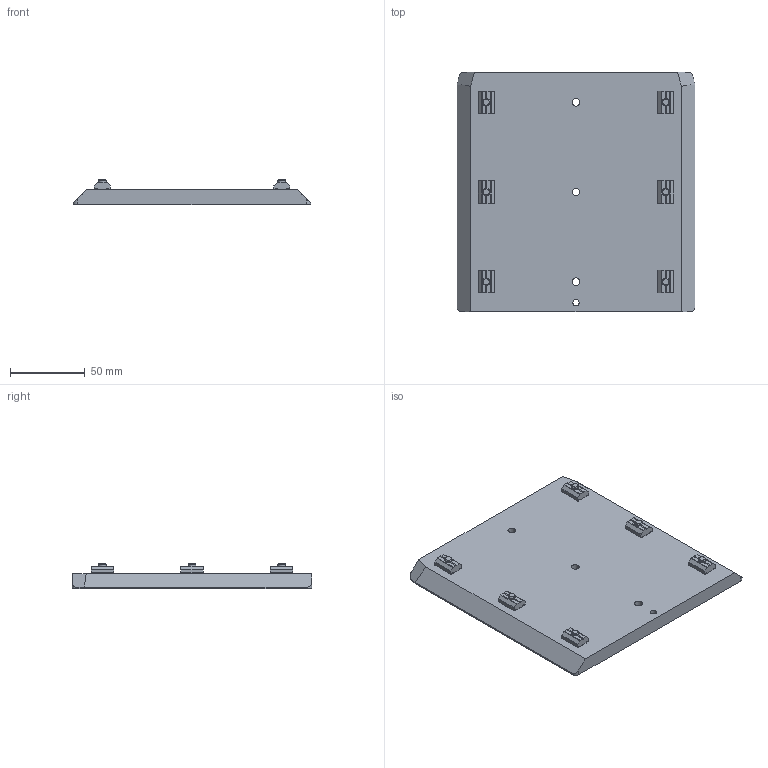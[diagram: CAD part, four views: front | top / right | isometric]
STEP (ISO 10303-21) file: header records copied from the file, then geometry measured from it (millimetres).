
FILE_DESCRIPTION(('STEP AP214'),'1');
FILE_NAME('CA.GPM2.X.stp','2017-07-27T14:34:05',(' '),(' '),'Spatial InterOp 3D',' ',' ');
FILE_SCHEMA(('automotive_design'));
Length unit declared in the file: millimetre
Products named in the file (6): CA.GWP.5U; GWP.5U; R.5.SCH; V.TCE5x12; GPM2.X
Assembly tree (20 placements, depth 3):
  (unnamed)
    CA.GWP.5U  x6
      GWP.5U
    R.5.SCH  x6
    V.TCE5x12  x6
    GPM2.X
Bounding box: 159 x 160 x 17 mm (x, y, z)
Volume: 242800.3 mm3; surface area: 64163.3 mm2
Topology: 13 solids, 19 shells, 1448 faces, 4202 edges, 2783 vertices
Faces by surface type: plane 1305, cylinder 125, torus 12, cone 6
Full cylindrical faces by diameter (mm): 4.2 x7, 5 x6, 5.2 x9, 5.3 x6, 8.5 x6, 9 x6, 10 x9
Entity records: 11435 total; most frequent: CARTESIAN_POINT 1620, DIRECTION 1612, ORIENTED_EDGE 1502, EDGE_CURVE 751, AXIS2_PLACEMENT_3D 567, VERTEX_POINT 515, LINE 478, VECTOR 478
